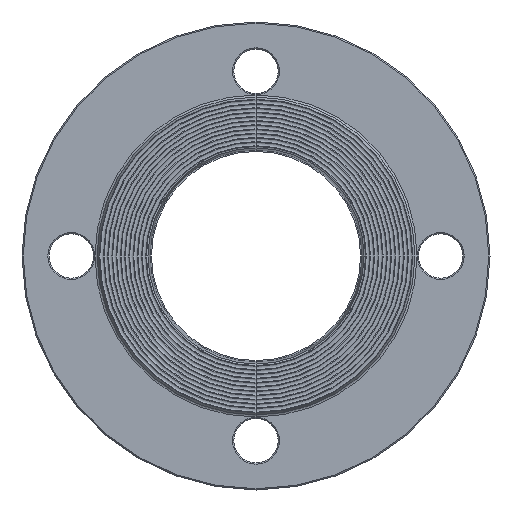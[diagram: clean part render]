
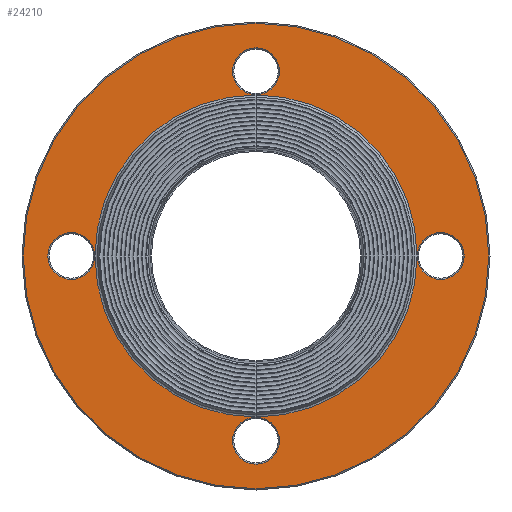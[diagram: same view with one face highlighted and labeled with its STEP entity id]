
A CAD part, left-side view. The second image highlights one B-rep face of the part: STEP entity #24210.
In plain terms, the highlighted planar face has unit normal (-1, 0, 0) as drawn and (0, 0, 1) by its records, which use the part's own axes.
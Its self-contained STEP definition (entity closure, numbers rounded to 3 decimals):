
#3410=CARTESIAN_POINT('',(175.388,110.,14.874));
#3420=VERTEX_POINT('',#3410);
#3450=CARTESIAN_POINT('',(110.,110.,14.874));
#3460=DIRECTION('',(0.,0.,1.));
#3470=DIRECTION('',(-1.,0.,0.));
#3480=AXIS2_PLACEMENT_3D('',#3450,#3460,#3470);
#3490=CIRCLE('',#3480,65.388);
#3500=CARTESIAN_POINT('',(44.612,110.,14.874));
#3510=VERTEX_POINT('',#3500);
#3520=EDGE_CURVE('',#3510,#3420,#3490,.T.);
#12470=EDGE_CURVE('',#3420,#3510,#3490,.T.);
#21880=CARTESIAN_POINT('',(119.5,185.,14.874));
#21890=VERTEX_POINT('',#21880);
#21920=CARTESIAN_POINT('',(110.,185.,14.874));
#21930=DIRECTION('',(0.,0.,1.));
#21940=DIRECTION('',(1.,0.,0.));
#21950=AXIS2_PLACEMENT_3D('',#21920,#21930,#21940);
#21960=CIRCLE('',#21950,9.5);
#21970=CARTESIAN_POINT('',(100.5,185.,14.874));
#21980=VERTEX_POINT('',#21970);
#21990=EDGE_CURVE('',#21980,#21890,#21960,.T.);
#22310=EDGE_CURVE('',#21890,#21980,#21960,.T.);
#22780=CARTESIAN_POINT('',(44.5,110.,14.874));
#22790=VERTEX_POINT('',#22780);
#22820=CARTESIAN_POINT('',(35.,110.,14.874));
#22830=DIRECTION('',(0.,0.,1.));
#22840=DIRECTION('',(1.,0.,0.));
#22850=AXIS2_PLACEMENT_3D('',#22820,#22830,#22840);
#22860=CIRCLE('',#22850,9.5);
#22870=CARTESIAN_POINT('',(25.5,110.,14.874));
#22880=VERTEX_POINT('',#22870);
#22890=EDGE_CURVE('',#22880,#22790,#22860,.T.);
#23090=EDGE_CURVE('',#22790,#22880,#22860,.T.);
#23590=CARTESIAN_POINT('',(191.075,110.,14.874));
#23600=DIRECTION('',(0.,-0.,-1.));
#23610=DIRECTION('',(1.,0.,0.));
#23620=AXIS2_PLACEMENT_3D('',#23590,#23600,#23610);
#23630=PLANE('',#23620);
#23640=ORIENTED_EDGE('',*,*,#22310,.F.);
#23650=ORIENTED_EDGE('',*,*,#21990,.F.);
#23660=EDGE_LOOP('',(#23650,#23640));
#23670=FACE_BOUND('',#23660,.T.);
#23680=ORIENTED_EDGE('',*,*,#23090,.F.);
#23690=ORIENTED_EDGE('',*,*,#22890,.F.);
#23700=EDGE_LOOP('',(#23690,#23680));
#23710=FACE_BOUND('',#23700,.T.);
#23720=ORIENTED_EDGE('',*,*,#12470,.F.);
#23730=ORIENTED_EDGE('',*,*,#3520,.F.);
#23740=EDGE_LOOP('',(#23730,#23720));
#23750=FACE_BOUND('',#23740,.T.);
#23760=CARTESIAN_POINT('',(185.,110.,14.874));
#23770=DIRECTION('',(0.,0.,1.));
#23780=DIRECTION('',(1.,0.,0.));
#23790=AXIS2_PLACEMENT_3D('',#23760,#23770,#23780);
#23800=CIRCLE('',#23790,9.5);
#23810=CARTESIAN_POINT('',(194.5,110.,14.874));
#23820=VERTEX_POINT('',#23810);
#23830=CARTESIAN_POINT('',(175.5,110.,14.874));
#23840=VERTEX_POINT('',#23830);
#23850=EDGE_CURVE('',#23820,#23840,#23800,.T.);
#23860=ORIENTED_EDGE('',*,*,#23850,.F.);
#23870=EDGE_CURVE('',#23840,#23820,#23800,.T.);
#23880=ORIENTED_EDGE('',*,*,#23870,.F.);
#23890=EDGE_LOOP('',(#23880,#23860));
#23900=FACE_BOUND('',#23890,.T.);
#23910=CARTESIAN_POINT('',(110.,35.,14.874));
#23920=DIRECTION('',(0.,0.,1.));
#23930=DIRECTION('',(1.,0.,0.));
#23940=AXIS2_PLACEMENT_3D('',#23910,#23920,#23930);
#23950=CIRCLE('',#23940,9.5);
#23960=CARTESIAN_POINT('',(119.5,35.,14.874));
#23970=VERTEX_POINT('',#23960);
#23980=CARTESIAN_POINT('',(100.5,35.,14.874));
#23990=VERTEX_POINT('',#23980);
#24000=EDGE_CURVE('',#23970,#23990,#23950,.T.);
#24010=ORIENTED_EDGE('',*,*,#24000,.F.);
#24020=EDGE_CURVE('',#23990,#23970,#23950,.T.);
#24030=ORIENTED_EDGE('',*,*,#24020,.F.);
#24040=EDGE_LOOP('',(#24030,#24010));
#24050=FACE_BOUND('',#24040,.T.);
#24060=CARTESIAN_POINT('',(110.,110.,14.874));
#24070=DIRECTION('',(0.,0.,1.));
#24080=DIRECTION('',(1.,0.,0.));
#24090=AXIS2_PLACEMENT_3D('',#24060,#24070,#24080);
#24100=CIRCLE('',#24090,94.5);
#24110=CARTESIAN_POINT('',(204.5,110.,14.874));
#24120=VERTEX_POINT('',#24110);
#24130=CARTESIAN_POINT('',(15.5,110.,14.874));
#24140=VERTEX_POINT('',#24130);
#24150=EDGE_CURVE('',#24120,#24140,#24100,.T.);
#24160=ORIENTED_EDGE('',*,*,#24150,.T.);
#24170=EDGE_CURVE('',#24140,#24120,#24100,.T.);
#24180=ORIENTED_EDGE('',*,*,#24170,.T.);
#24190=EDGE_LOOP('',(#24180,#24160));
#24200=FACE_OUTER_BOUND('',#24190,.T.);
#24210=ADVANCED_FACE('',(#23670,#23710,#23750,#23900,#24050,#24200),
#23630,.F.);
